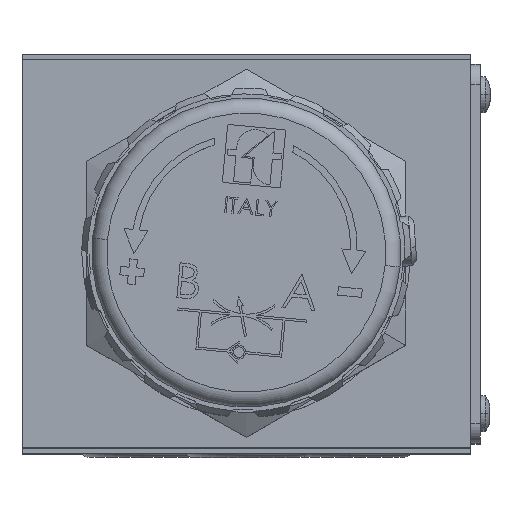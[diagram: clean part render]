
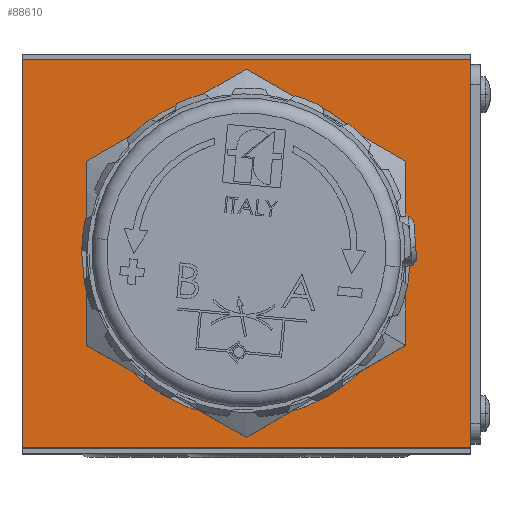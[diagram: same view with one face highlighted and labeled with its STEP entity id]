
A CAD part, top view. The second image highlights one B-rep face of the part: STEP entity #88610.
In plain terms, the highlighted planar face has unit normal (0, 0, 1).
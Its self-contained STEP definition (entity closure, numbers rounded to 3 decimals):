
#1486 = CARTESIAN_POINT ( 'NONE',  ( -22.5, 20., 47.5 ) ) ;
#11675 = CARTESIAN_POINT ( 'NONE',  ( 22.5, 19.5, 47.5 ) ) ;
#12138 = ORIENTED_EDGE ( 'NONE', *, *, #37296, .F. ) ;
#13095 = DIRECTION ( 'NONE',  ( 0., 1., 0. ) ) ;
#16214 = LINE ( 'NONE', #104620, #58138 ) ;
#17502 = CARTESIAN_POINT ( 'NONE',  ( -22.5, 19.5, 47.5 ) ) ;
#19583 = AXIS2_PLACEMENT_3D ( 'NONE', #24775, #83287, #33201 ) ;
#20075 = ORIENTED_EDGE ( 'NONE', *, *, #40878, .T. ) ;
#24775 = CARTESIAN_POINT ( 'NONE',  ( 0., 0., 47.5 ) ) ;
#26557 = DIRECTION ( 'NONE',  ( 0., 0., 1. ) ) ;
#26718 = DIRECTION ( 'NONE',  ( 0., -1., 0. ) ) ;
#32628 = VECTOR ( 'NONE', #26718, 1000. ) ;
#33201 = DIRECTION ( 'NONE',  ( 1., 0., 0. ) ) ;
#34347 = DIRECTION ( 'NONE',  ( 1., 0., 0. ) ) ;
#37296 = EDGE_CURVE ( 'NONE', #75823, #89900, #104124, .T. ) ;
#37619 = CARTESIAN_POINT ( 'NONE',  ( 22.5, -19.5, 47.5 ) ) ;
#38425 = FACE_BOUND ( 'NONE', #60568, .T. ) ;
#38914 = CIRCLE ( 'NONE', #48836, 16.5 ) ;
#39766 = EDGE_CURVE ( 'NONE', #75609, #71110, #38914, .T. ) ;
#40026 = PLANE ( 'NONE',  #82977 ) ;
#40878 = EDGE_CURVE ( 'NONE', #75823, #75703, #16214, .T. ) ;
#43316 = VECTOR ( 'NONE', #34347, 1000. ) ;
#46184 = CARTESIAN_POINT ( 'NONE',  ( 16.5, 0., 47.5 ) ) ;
#48463 = DIRECTION ( 'NONE',  ( 1., 0., 0. ) ) ;
#48836 = AXIS2_PLACEMENT_3D ( 'NONE', #76685, #26557, #85078 ) ;
#56738 = DIRECTION ( 'NONE',  ( -1., 0., 0. ) ) ;
#58138 = VECTOR ( 'NONE', #13095, 1000. ) ;
#59590 = VECTOR ( 'NONE', #56738, 1000. ) ;
#60298 = ORIENTED_EDGE ( 'NONE', *, *, #106353, .F. ) ;
#60568 = EDGE_LOOP ( 'NONE', ( #60298, #63454 ) ) ;
#61028 = CARTESIAN_POINT ( 'NONE',  ( -22.5, 19.5, 47.5 ) ) ;
#63216 = EDGE_CURVE ( 'NONE', #85066, #75703, #87738, .T. ) ;
#63454 = ORIENTED_EDGE ( 'NONE', *, *, #39766, .F. ) ;
#71110 = VERTEX_POINT ( 'NONE', #46184 ) ;
#75609 = VERTEX_POINT ( 'NONE', #76095 ) ;
#75703 = VERTEX_POINT ( 'NONE', #11675 ) ;
#75823 = VERTEX_POINT ( 'NONE', #37619 ) ;
#76095 = CARTESIAN_POINT ( 'NONE',  ( -16.5, 0., 47.5 ) ) ;
#76685 = CARTESIAN_POINT ( 'NONE',  ( 0., 0., 47.5 ) ) ;
#77153 = LINE ( 'NONE', #1486, #32628 ) ;
#81720 = CARTESIAN_POINT ( 'NONE',  ( -22.5, -20., 47.5 ) ) ;
#82977 = AXIS2_PLACEMENT_3D ( 'NONE', #81720, #98590, #48463 ) ;
#83287 = DIRECTION ( 'NONE',  ( 0., 0., 1. ) ) ;
#85066 = VERTEX_POINT ( 'NONE', #61028 ) ;
#85078 = DIRECTION ( 'NONE',  ( 1., 0., 0. ) ) ;
#86442 = CIRCLE ( 'NONE', #19583, 16.5 ) ;
#87738 = LINE ( 'NONE', #17502, #43316 ) ;
#88610 = ADVANCED_FACE ( 'NONE', ( #38425, #105228 ), #40026, .T. ) ;
#89900 = VERTEX_POINT ( 'NONE', #97437 ) ;
#90059 = CARTESIAN_POINT ( 'NONE',  ( -22.5, -19.5, 47.5 ) ) ;
#92679 = ORIENTED_EDGE ( 'NONE', *, *, #63216, .F. ) ;
#97437 = CARTESIAN_POINT ( 'NONE',  ( -22.5, -19.5, 47.5 ) ) ;
#97633 = EDGE_CURVE ( 'NONE', #85066, #89900, #77153, .T. ) ;
#98590 = DIRECTION ( 'NONE',  ( 0., 0., 1. ) ) ;
#99470 = EDGE_LOOP ( 'NONE', ( #12138, #20075, #92679, #107641 ) ) ;
#104124 = LINE ( 'NONE', #90059, #59590 ) ;
#104620 = CARTESIAN_POINT ( 'NONE',  ( 22.5, 20., 47.5 ) ) ;
#105228 = FACE_OUTER_BOUND ( 'NONE', #99470, .T. ) ;
#106353 = EDGE_CURVE ( 'NONE', #71110, #75609, #86442, .T. ) ;
#107641 = ORIENTED_EDGE ( 'NONE', *, *, #97633, .T. ) ;
